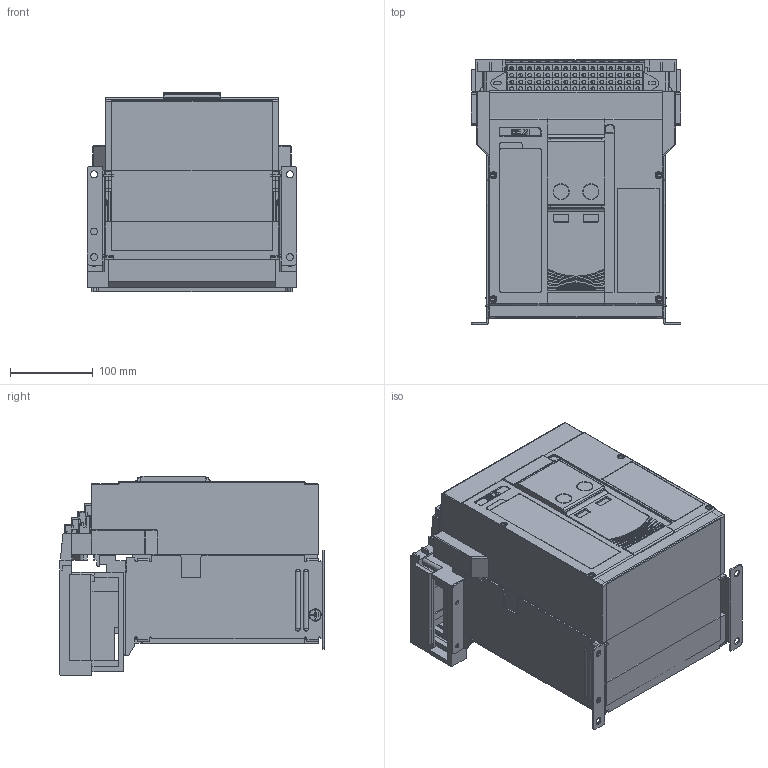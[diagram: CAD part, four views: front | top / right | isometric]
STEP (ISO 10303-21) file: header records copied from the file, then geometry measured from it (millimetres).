
FILE_DESCRIPTION (( 'STEP AP203' ), '1' );
FILE_NAME ('OptiMat A S1-630-1600-3P-F+.STEP', '2024-06-25T08:24:34', ( '' ), ( '' ), 'SwSTEP 2.0', 'SolidWorks 2018', '' );
FILE_SCHEMA (( 'CONFIG_CONTROL_DESIGN' ));
Products named in the file (1): OptiMat A S1-630-1600-3P-F+
Bounding box: 254 x 320 x 241.5 mm (x, y, z)
Surface area: 908496.2 mm2 (no closed solid volume)
Topology: 0 solids, 145 shells, 1959 faces, 13009 edges, 11018 vertices
Faces by surface type: plane 1247, cylinder 569, bspline 78, torus 55, sphere 10
Entity records: 155231 total; most frequent: CARTESIAN_POINT 66014, ORIENTED_EDGE 16669, DIRECTION 14600, EDGE_CURVE 13007, VERTEX_POINT 11018, LINE 8970, VECTOR 8970, B_SPLINE_CURVE_WITH_KNOTS 3102
